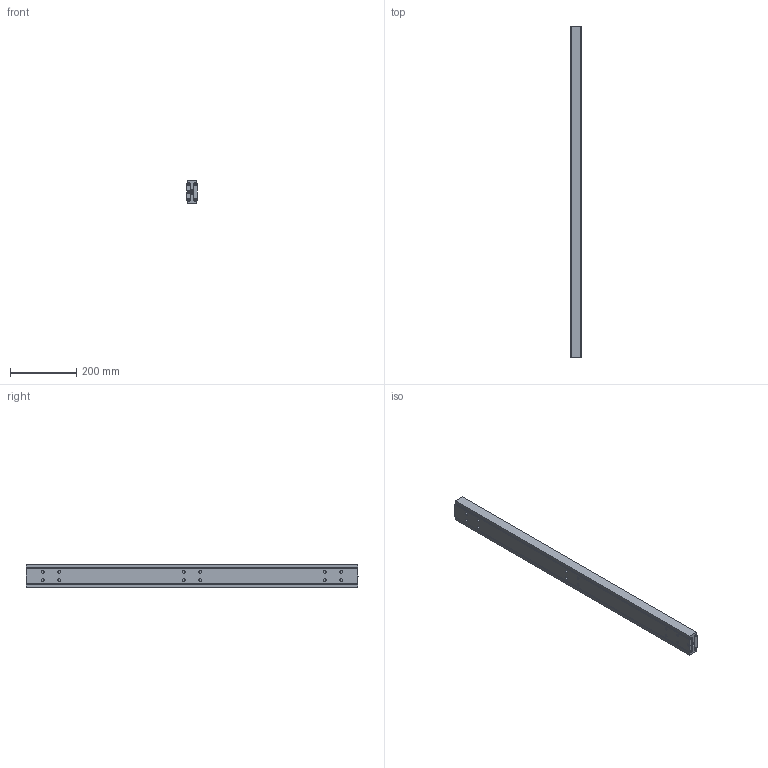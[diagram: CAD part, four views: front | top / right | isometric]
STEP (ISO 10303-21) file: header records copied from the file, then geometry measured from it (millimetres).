
FILE_DESCRIPTION(/* description */ (''),/* implementation_level */ '2;1');
FILE_NAME(/* name */ 'D:\Zeichnungen Schienen Komplett\MX-DTP70\MX-DTP70.100\MX-DTP70.100_eingefahren.step',/* time_stamp */ '2022-03-03T13:38:48+01:00',/* author */ ('zmile'),/* organization */ (''),/* preprocessor_version */ 'ST-DEVELOPER v16.13',/* originating_system */ 'AutoCAD Mechanical',/* authorisation */ '');
FILE_SCHEMA (('AUTOMOTIVE_DESIGN { 1 0 10303 214 3 1 1 }'));
Length unit declared in the file: millimetre
Products named in the file (1): Product
Bounding box: 32 x 1000.67 x 70 mm (x, y, z)
Volume: 1705087.1 mm3; surface area: 611031.2 mm2
Topology: 61 solids, 63 shells, 190 faces, 632 edges, 456 vertices
Faces by surface type: plane 82, sphere 56, cylinder 38, bspline 8, torus 6
Full cylindrical faces by diameter (mm): 8 x24, 13 x2
Entity records: 12955 total; most frequent: CARTESIAN_POINT 7587, DIRECTION 1090, ORIENTED_EDGE 828, EDGE_CURVE 486, VERTEX_POINT 454, AXIS2_PLACEMENT_3D 439, EDGE_LOOP 386, CIRCLE 252
